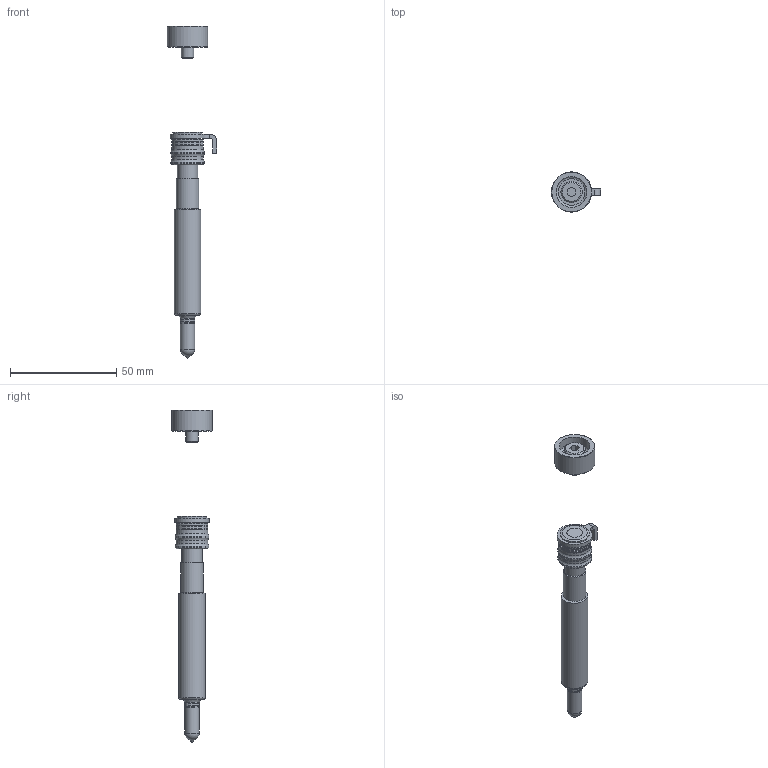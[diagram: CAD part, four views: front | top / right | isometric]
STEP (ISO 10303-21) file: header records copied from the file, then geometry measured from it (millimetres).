
FILE_DESCRIPTION(/* description */ (''),/* implementation_level */ '2;1');
FILE_NAME(/* name */ 'U250 HT-DX.stp',/* time_stamp */ '2021-12-23T12:42:26+08:00',/* author */ (''),/* organization */ (''),/* preprocessor_version */ 'ST-DEVELOPER v16',/* originating_system */ 'SIEMENS PLM Software NX 11.0',/* authorisation */ '');
FILE_SCHEMA (('AUTOMOTIVE_DESIGN { 1 0 10303 214 3 1 1 1 }'));
Length unit declared in the file: millimetre
Products named in the file (10): 3D_EXPORT_3D_ASSY_11309969_1_id52_x_t; 3D_EXPORT_3D_ASSY_11309969_1_id47_x_t; 3D_EXPORT_3D_ASSY_11309969_1_id42_x_t; 3D_EXPORT_3D_ASSY_11309969_1_id37_x_t; 3D_EXPORT_3D_ASSY_11309969_1_id32_x_t; 3D_EXPORT_3D_ASSY_11309969_1_id27_x_t; 3D_EXPORT_3D_ASSY_11309969_1_id16_x_t; 3D_EXPORT_3D_ASSY_11309969_1_id11_x_t; 3D_EXPORT_3D_ASSY_11309969_1_id6_x_t; 3D_EXPORT_3D_ASSY_11309969_1_x_t
Assembly tree (12 placements, depth 2):
  3D_EXPORT_3D_ASSY_11309969_1_x_t
    3D_EXPORT_3D_ASSY_11309969_1_id6_x_t
    3D_EXPORT_3D_ASSY_11309969_1_id11_x_t
    3D_EXPORT_3D_ASSY_11309969_1_id16_x_t  x4
    3D_EXPORT_3D_ASSY_11309969_1_id27_x_t
    3D_EXPORT_3D_ASSY_11309969_1_id32_x_t
    3D_EXPORT_3D_ASSY_11309969_1_id37_x_t
    3D_EXPORT_3D_ASSY_11309969_1_id42_x_t
    3D_EXPORT_3D_ASSY_11309969_1_id47_x_t
    3D_EXPORT_3D_ASSY_11309969_1_id52_x_t
Bounding box: 23.18 x 19 x 156.31 mm (x, y, z)
Volume: 21264.2 mm3; surface area: 12407.8 mm2
Topology: 12 solids, 12 shells, 169 faces, 335 edges, 202 vertices
Faces by surface type: plane 69, cylinder 44, cone 35, torus 16, bspline 4, sphere 1
Full cylindrical faces by diameter (mm): 0.7 x1, 4.73 x1, 4.967 x1, 5.5 x1, 5.795 x1, 6 x1, 6.45 x1, 6.465 x1, 6.5 x1, 6.8 x1, 6.995 x1, 7 x1, 7.1 x1, 9.56 x2, 10 x1, 10.61 x1, 12.5 x1, 13.8 x1, 14.5 x1, 15 x6, 15.99 x2, 19 x1
Entity records: 5266 total; most frequent: CARTESIAN_POINT 904, DIRECTION 672, ORIENTED_EDGE 496, AXIS2_PLACEMENT_3D 294, EDGE_CURVE 248, EDGE_LOOP 228, VERTEX_POINT 180, PRESENTATION_STYLE_ASSIGNMENT 166
